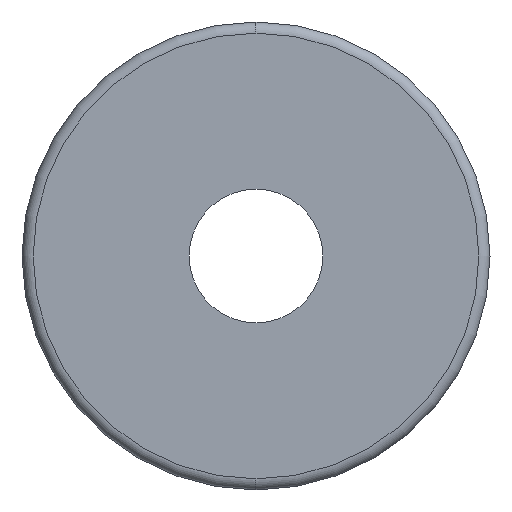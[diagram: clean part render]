
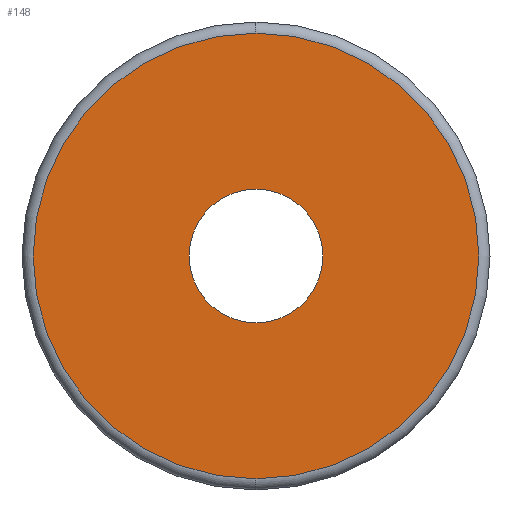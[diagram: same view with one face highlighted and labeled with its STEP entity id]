
A CAD part, left-side view. The second image highlights one B-rep face of the part: STEP entity #148.
In plain terms, the highlighted planar face has unit normal (-1, 0, 0).
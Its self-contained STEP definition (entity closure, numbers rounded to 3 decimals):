
#19 = ORIENTED_EDGE ( 'NONE', *, *, #21, .T. ) ;
#21 = EDGE_CURVE ( 'NONE', #377, #346, #408, .T. ) ;
#42 = AXIS2_PLACEMENT_3D ( 'NONE', #140, #246, #283 ) ;
#43 = CARTESIAN_POINT ( 'NONE',  ( 0., 0., 0. ) ) ;
#45 = DIRECTION ( 'NONE',  ( 0., 0., 1. ) ) ;
#56 = CARTESIAN_POINT ( 'NONE',  ( 0., 0., 0. ) ) ;
#82 = DIRECTION ( 'NONE',  ( 0., 0., -1. ) ) ;
#103 = EDGE_CURVE ( 'NONE', #344, #117, #383, .T. ) ;
#111 = DIRECTION ( 'NONE',  ( -1., 0., 0. ) ) ;
#117 = VERTEX_POINT ( 'NONE', #275 ) ;
#121 = CIRCLE ( 'NONE', #373, 20. ) ;
#139 = AXIS2_PLACEMENT_3D ( 'NONE', #292, #294, #227 ) ;
#140 = CARTESIAN_POINT ( 'NONE',  ( 0., 6., 0. ) ) ;
#148 = ADVANCED_FACE ( 'NONE', ( #343, #298 ), #370, .F. ) ;
#161 = CARTESIAN_POINT ( 'NONE',  ( 0., 0., 6. ) ) ;
#166 = CARTESIAN_POINT ( 'NONE',  ( 0., 0., -20. ) ) ;
#168 = EDGE_LOOP ( 'NONE', ( #268, #19 ) ) ;
#188 = CARTESIAN_POINT ( 'NONE',  ( 0., 0., 20. ) ) ;
#192 = ORIENTED_EDGE ( 'NONE', *, *, #103, .F. ) ;
#198 = EDGE_CURVE ( 'NONE', #346, #377, #121, .T. ) ;
#210 = EDGE_CURVE ( 'NONE', #117, #344, #235, .T. ) ;
#225 = CARTESIAN_POINT ( 'NONE',  ( 0., 0., 0. ) ) ;
#227 = DIRECTION ( 'NONE',  ( 0., 0., 1. ) ) ;
#228 = DIRECTION ( 'NONE',  ( -1., 0., 0. ) ) ;
#234 = AXIS2_PLACEMENT_3D ( 'NONE', #225, #260, #265 ) ;
#235 = CIRCLE ( 'NONE', #361, 6. ) ;
#246 = DIRECTION ( 'NONE',  ( 1., 0., 0. ) ) ;
#251 = ORIENTED_EDGE ( 'NONE', *, *, #210, .F. ) ;
#260 = DIRECTION ( 'NONE',  ( -1., 0., 0. ) ) ;
#265 = DIRECTION ( 'NONE',  ( 0., 0., -1. ) ) ;
#268 = ORIENTED_EDGE ( 'NONE', *, *, #198, .T. ) ;
#275 = CARTESIAN_POINT ( 'NONE',  ( 0., 0., -6. ) ) ;
#283 = DIRECTION ( 'NONE',  ( 0., 0., -1. ) ) ;
#292 = CARTESIAN_POINT ( 'NONE',  ( 0., 0., 0. ) ) ;
#294 = DIRECTION ( 'NONE',  ( -1., 0., 0. ) ) ;
#298 = FACE_BOUND ( 'NONE', #407, .T. ) ;
#343 = FACE_OUTER_BOUND ( 'NONE', #168, .T. ) ;
#344 = VERTEX_POINT ( 'NONE', #161 ) ;
#346 = VERTEX_POINT ( 'NONE', #166 ) ;
#361 = AXIS2_PLACEMENT_3D ( 'NONE', #43, #228, #45 ) ;
#370 = PLANE ( 'NONE',  #42 ) ;
#373 = AXIS2_PLACEMENT_3D ( 'NONE', #56, #111, #82 ) ;
#377 = VERTEX_POINT ( 'NONE', #188 ) ;
#383 = CIRCLE ( 'NONE', #139, 6. ) ;
#407 = EDGE_LOOP ( 'NONE', ( #192, #251 ) ) ;
#408 = CIRCLE ( 'NONE', #234, 20. ) ;
